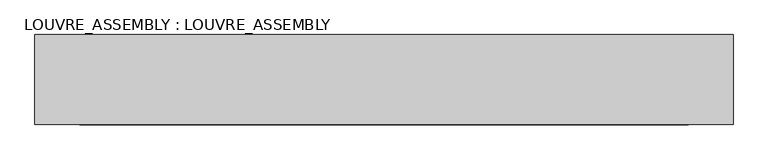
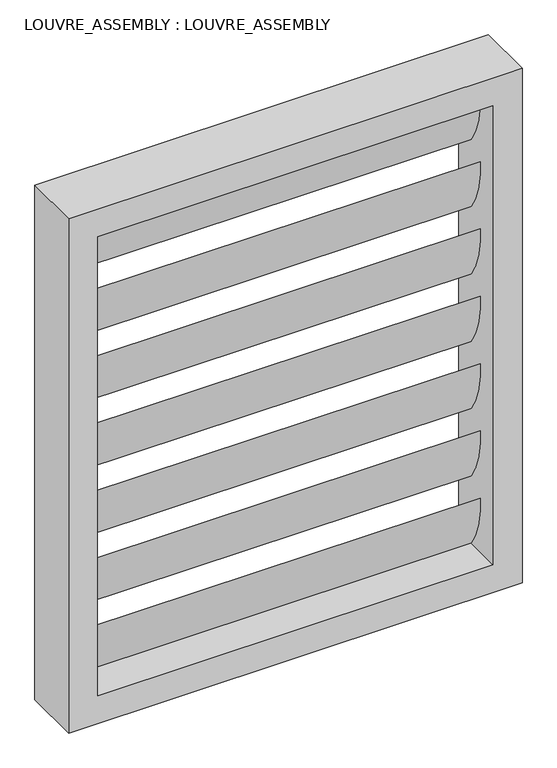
"""IFC4 building model written with IfcOpenShell, lengths in millimetres: plate geometry, LOUVRE_ASSEMBLY : LOUVRE_ASSEMBLY."""

from ifc_helpers import new_model, si_unit, point, frame, frame_2d, origin, place, context, project, spatial, circle_curve, trimmed, segment, composite_curve, outline, extrude, faceted_brep, source, transform, mapped, element, save


def louvre_assembly_louvre_assembly_a25a069c(model_context):
    return source(origin(), model_context, "Body", "SolidModel", [
        extrude(outline(composite_curve([segment(trimmed(circle_curve(frame_2d((202.8444235, 386.8519995)), 222.9910312), [point((19.4114284, 260.055563))], [point((-19.4114284, 404.944437))], False, "CARTESIAN"), True, "CONTINUOUS"), segment(trimmed(circle_curve(frame_2d((-202.8444235, 278.1480005)), 222.9910312), [point((-19.4114284, 404.944437))], [point((19.4114284, 260.055563))], False, "CARTESIAN"), True, "CONTINUOUS")], self_intersect=False)), frame((-506.2846777, 0.0, 0.0), z_axis=(1.0, 0.0, 0.0), x_axis=(0.0, 1.0, 0.0)), (0.0, 0.0, 1.0), 1012.5693555),
        extrude(outline(composite_curve([segment(trimmed(circle_curve(frame_2d((202.8444235, 569.3519995)), 222.9910312), [point((19.4114284, 442.555563))], [point((-19.4114284, 587.444437))], False, "CARTESIAN"), True, "CONTINUOUS"), segment(trimmed(circle_curve(frame_2d((-202.8444235, 460.6480005)), 222.9910312), [point((-19.4114284, 587.444437))], [point((19.4114284, 442.555563))], False, "CARTESIAN"), True, "CONTINUOUS")], self_intersect=False)), frame((-506.2846777, 0.0, 0.0), z_axis=(1.0, 0.0, 0.0), x_axis=(0.0, 1.0, 0.0)), (0.0, 0.0, 1.0), 1012.5693555),
        extrude(outline(composite_curve([segment(trimmed(circle_curve(frame_2d((202.8444235, 751.8519995)), 222.9910312), [point((19.4114284, 625.055563))], [point((-19.4114284, 769.944437))], False, "CARTESIAN"), True, "CONTINUOUS"), segment(trimmed(circle_curve(frame_2d((-202.8444235, 643.1480005)), 222.9910312), [point((-19.4114284, 769.944437))], [point((19.4114284, 625.055563))], False, "CARTESIAN"), True, "CONTINUOUS")], self_intersect=False)), frame((-506.2846777, 0.0, 0.0), z_axis=(1.0, 0.0, 0.0), x_axis=(0.0, 1.0, 0.0)), (0.0, 0.0, 1.0), 1012.5693555),
        extrude(outline(composite_curve([segment(trimmed(circle_curve(frame_2d((202.8444235, 934.3519995)), 222.9910312), [point((19.4114284, 807.555563))], [point((-19.4114284, 952.444437))], False, "CARTESIAN"), True, "CONTINUOUS"), segment(trimmed(circle_curve(frame_2d((-202.8444235, 825.6480005)), 222.9910312), [point((-19.4114284, 952.444437))], [point((19.4114284, 807.555563))], False, "CARTESIAN"), True, "CONTINUOUS")], self_intersect=False)), frame((-506.2846777, 0.0, 0.0), z_axis=(1.0, 0.0, 0.0), x_axis=(0.0, 1.0, 0.0)), (0.0, 0.0, 1.0), 1012.5693555),
        extrude(outline(composite_curve([segment(trimmed(circle_curve(frame_2d((202.8444235, 1116.8519995)), 222.9910312), [point((19.4114284, 990.055563))], [point((-19.4114284, 1134.944437))], False, "CARTESIAN"), True, "CONTINUOUS"), segment(trimmed(circle_curve(frame_2d((-202.8444235, 1008.1480005)), 222.9910312), [point((-19.4114284, 1134.944437))], [point((19.4114284, 990.055563))], False, "CARTESIAN"), True, "CONTINUOUS")], self_intersect=False)), frame((-506.2846777, 0.0, 0.0), z_axis=(1.0, 0.0, 0.0), x_axis=(0.0, 1.0, 0.0)), (0.0, 0.0, 1.0), 1012.5693555),
        extrude(outline(composite_curve([segment(trimmed(circle_curve(frame_2d((202.8444235, 204.3519995)), 222.9910312), [point((19.4114284, 77.555563))], [point((-19.4114284, 222.444437))], False, "CARTESIAN"), True, "CONTINUOUS"), segment(trimmed(circle_curve(frame_2d((-202.8444235, 95.6480005)), 222.9910312), [point((-19.4114284, 222.444437))], [point((19.4114284, 77.555563))], False, "CARTESIAN"), True, "CONTINUOUS")], self_intersect=False)), frame((-506.2846777, 0.0, 0.0), z_axis=(1.0, 0.0, 0.0), x_axis=(0.0, 1.0, 0.0)), (0.0, 0.0, 1.0), 1012.5693555),
        extrude(outline(composite_curve([segment(trimmed(circle_curve(frame_2d((202.8444235, 1299.3519995)), 222.9910312), [point((19.4114284, 1172.555563))], [point((-19.4114284, 1317.444437))], False, "CARTESIAN"), True, "CONTINUOUS"), segment(trimmed(circle_curve(frame_2d((-202.8444235, 1190.6480005)), 222.9910312), [point((-19.4114284, 1317.444437))], [point((19.4114284, 1172.555563))], False, "CARTESIAN"), True, "CONTINUOUS")], self_intersect=False)), frame((-506.2846777, 0.0, 0.0), z_axis=(1.0, 0.0, 0.0), x_axis=(0.0, 1.0, 0.0)), (0.0, 0.0, 1.0), 1012.5693555),
        faceted_brep([(-581.2846777, -75.0, 1395.0), (-581.2846777, 75.0, 1395.0), (-581.2846777, 75.0, 0.0), (-581.2846777, -75.0, 0.0), (-575.6596777, 75.0, 1389.375), (-575.6596777, -69.375, 1389.375), (-575.6596777, -69.375, 5.625), (-575.6596777, 75.0, 5.625), (-511.9096777, -69.375, 1325.625), (-511.9096777, 75.0, 1325.625), (-511.9096777, 75.0, 69.375), (-511.9096777, -69.375, 69.375), (-506.2846777, 75.0, 1320.0), (-506.2846777, -75.0, 1320.0), (-506.2846777, -75.0, 75.0), (-506.2846777, 75.0, 75.0), (581.2846777, 75.0, 0.0), (581.2846777, -75.0, 0.0), (575.6596777, -69.375, 5.625), (575.6596777, 75.0, 5.625), (511.9096777, 75.0, 69.375), (511.9096777, -69.375, 69.375), (506.2846777, -75.0, 75.0), (506.2846777, 75.0, 75.0), (581.2846777, 75.0, 1395.0), (581.2846777, -75.0, 1395.0), (575.6596777, -69.375, 1389.375), (575.6596777, 75.0, 1389.375), (511.9096777, 75.0, 1325.625), (511.9096777, -69.375, 1325.625), (506.2846777, -75.0, 1320.0), (506.2846777, 75.0, 1320.0)], [[[0, 1, 2, 3]], [[4, 5, 6, 7]], [[8, 9, 10, 11]], [[12, 13, 14, 15]], [[3, 2, 16, 17]], [[7, 6, 18, 19]], [[11, 10, 20, 21]], [[15, 14, 22, 23]], [[17, 16, 24, 25]], [[19, 18, 26, 27]], [[21, 20, 28, 29]], [[23, 22, 30, 31]], [[25, 24, 1, 0]], [[27, 26, 5, 4]], [[29, 28, 9, 8]], [[31, 30, 13, 12]], [[3, 17, 25, 0], [13, 30, 22, 14]], [[9, 28, 20, 10], [15, 23, 31, 12]], [[5, 26, 18, 6], [11, 21, 29, 8]], [[1, 24, 16, 2], [7, 19, 27, 4]]]),
    ])


if __name__ == "__main__":
    model = new_model("IFC4")
    model_context = context("Model", 3, world=origin())
    ifc_project = project(units=[si_unit("LENGTHUNIT", "METRE", prefix="MILLI")], contexts=[model_context])
    site = spatial("IfcSite", under=ifc_project)
    building = spatial("IfcBuilding", under=site)
    placement = place(None, origin())
    louvre_assembly_louvre_assembly_shape = louvre_assembly_louvre_assembly_a25a069c(model_context)
    element("IfcPlate", 1, ObjectType="LOUVRE_ASSEMBLY : LOUVRE_ASSEMBLY", at=placement, inside=building, context=model_context, shape_type="MappedRepresentation", body=[
        mapped(louvre_assembly_louvre_assembly_shape, transform((0.0, 0.0, 0.0), x_axis=(1.0, 0.0, 0.0), y_axis=(0.0, 1.0, 0.0), z_axis=(0.0, 0.0, 1.0))),
    ])
    save(model, "model.ifc")
